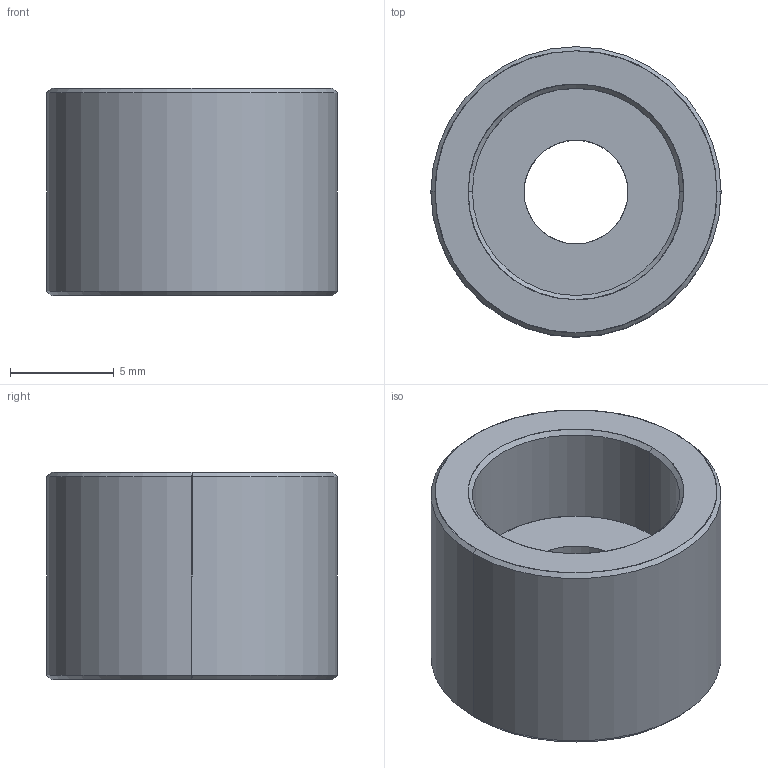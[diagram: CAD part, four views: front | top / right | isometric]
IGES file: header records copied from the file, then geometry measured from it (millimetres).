
Global section: file name: E:\UnigraphicsGraphicData\MISUMI_PRESS-PARTS\IGES\3d_j8_00097_r00.igs; native system: NX V5.0; preprocessor: UGS NX IGES V5.0; author: MISUMI; date: 20110105.161102; units: millimetre
Bounding box: 14 x 14 x 10 mm (x, y, z)
Surface area: 929 mm2 (no closed solid volume)
Topology: 0 solids, 0 shells, 17 faces, 104 edges, 104 vertices
Faces by surface type: bspline 17
